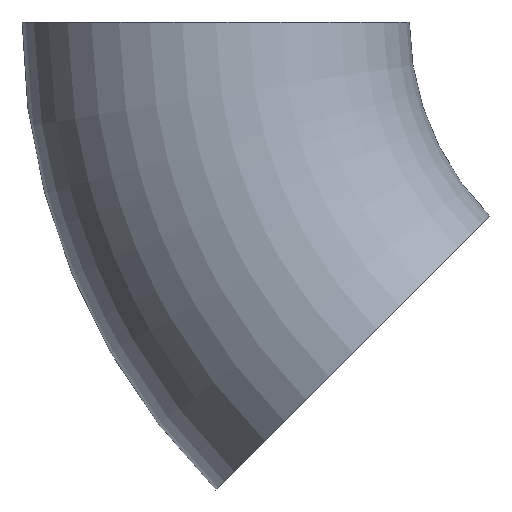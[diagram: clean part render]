
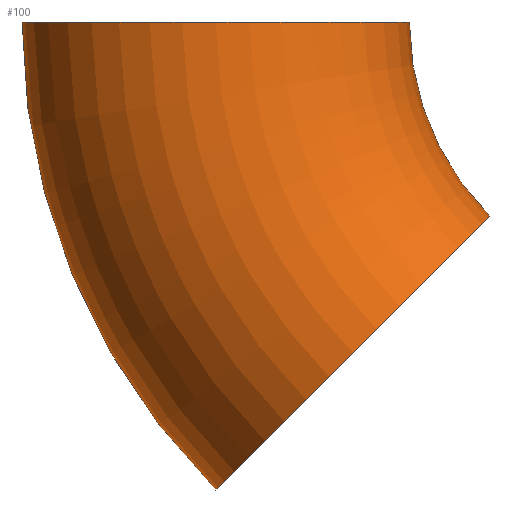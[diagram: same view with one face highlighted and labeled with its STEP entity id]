
A CAD part, front view. The second image highlights one B-rep face of the part: STEP entity #100.
In plain terms, the highlighted toroidal (fillet/blend) face has major radius 92 mm and minor radius 38.05 mm.
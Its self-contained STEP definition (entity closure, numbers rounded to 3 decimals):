
#20 = CIRCLE ( 'NONE', #95, 38.05 ) ;
#26 = DIRECTION ( 'NONE',  ( 0., 1., 0. ) ) ;
#50 = CARTESIAN_POINT ( 'NONE',  ( -65.054, 0., -65.054 ) ) ;
#58 = VERTEX_POINT ( 'NONE', #162 ) ;
#62 = EDGE_LOOP ( 'NONE', ( #97, #214, #67, #176 ) ) ;
#67 = ORIENTED_EDGE ( 'NONE', *, *, #155, .T. ) ;
#70 = CARTESIAN_POINT ( 'NONE',  ( -38.148, 0., -38.148 ) ) ;
#72 = CIRCLE ( 'NONE', #215, 53.95 ) ;
#75 = DIRECTION ( 'NONE',  ( 0., 0., 1. ) ) ;
#77 = AXIS2_PLACEMENT_3D ( 'NONE', #202, #26, #139 ) ;
#84 = VERTEX_POINT ( 'NONE', #70 ) ;
#88 = DIRECTION ( 'NONE',  ( 0., 1., 0. ) ) ;
#90 = CARTESIAN_POINT ( 'NONE',  ( -91.959, 0., -91.959 ) ) ;
#95 = AXIS2_PLACEMENT_3D ( 'NONE', #186, #246, #187 ) ;
#97 = ORIENTED_EDGE ( 'NONE', *, *, #126, .F. ) ;
#100 = ADVANCED_FACE ( 'NONE', ( #200 ), #177, .T. ) ;
#113 = DIRECTION ( 'NONE',  ( 0., 1., 0. ) ) ;
#126 = EDGE_CURVE ( 'NONE', #236, #160, #193, .T. ) ;
#128 = DIRECTION ( 'NONE',  ( 0., 0., 1. ) ) ;
#139 = DIRECTION ( 'NONE',  ( 0., 0., 1. ) ) ;
#148 = CIRCLE ( 'NONE', #152, 38.05 ) ;
#152 = AXIS2_PLACEMENT_3D ( 'NONE', #50, #167, #209 ) ;
#155 = EDGE_CURVE ( 'NONE', #84, #58, #72, .T. ) ;
#160 = VERTEX_POINT ( 'NONE', #220 ) ;
#162 = CARTESIAN_POINT ( 'NONE',  ( -53.95, 0., 0. ) ) ;
#167 = DIRECTION ( 'NONE',  ( -0.707, 0., 0.707 ) ) ;
#169 = EDGE_CURVE ( 'NONE', #160, #58, #20, .T. ) ;
#176 = ORIENTED_EDGE ( 'NONE', *, *, #169, .F. ) ;
#177 = TOROIDAL_SURFACE ( 'NONE', #77, 92., 38.05 ) ;
#179 = CARTESIAN_POINT ( 'NONE',  ( 0., 0., 0. ) ) ;
#184 = AXIS2_PLACEMENT_3D ( 'NONE', #179, #88, #128 ) ;
#186 = CARTESIAN_POINT ( 'NONE',  ( -92., 0., 0. ) ) ;
#187 = DIRECTION ( 'NONE',  ( 1., 0., 0. ) ) ;
#193 = CIRCLE ( 'NONE', #184, 130.05 ) ;
#200 = FACE_OUTER_BOUND ( 'NONE', #62, .T. ) ;
#202 = CARTESIAN_POINT ( 'NONE',  ( 0., 0., 0. ) ) ;
#209 = DIRECTION ( 'NONE',  ( 0.707, 0., 0.707 ) ) ;
#214 = ORIENTED_EDGE ( 'NONE', *, *, #241, .T. ) ;
#215 = AXIS2_PLACEMENT_3D ( 'NONE', #242, #113, #75 ) ;
#220 = CARTESIAN_POINT ( 'NONE',  ( -130.05, 0., 0. ) ) ;
#236 = VERTEX_POINT ( 'NONE', #90 ) ;
#241 = EDGE_CURVE ( 'NONE', #236, #84, #148, .T. ) ;
#242 = CARTESIAN_POINT ( 'NONE',  ( 0., 0., 0. ) ) ;
#246 = DIRECTION ( 'NONE',  ( 0., 0., 1. ) ) ;
